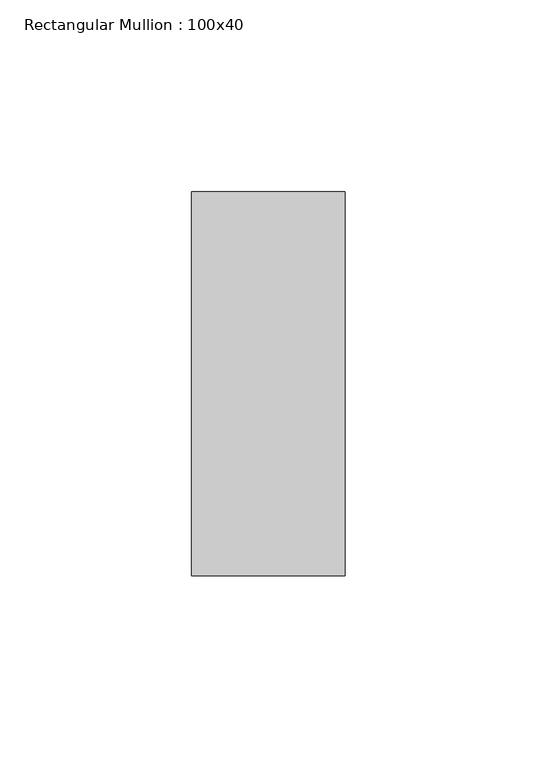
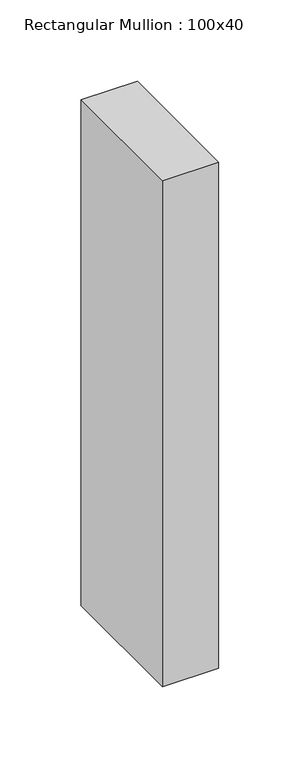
"""IFC4 building model written with IfcOpenShell, lengths in millimetres: member geometry, Rectangular Mullion : 100x40."""

from ifc_helpers import new_model, si_unit, frame, origin, place, context, project, spatial, polyline, outline, extrude, source, transform, mapped, element, save


def rectangular_mullion_100x40_4d7d8277(model_context):
    return source(origin(), model_context, "Body", "SweptSolid", [
        extrude(outline(polyline([(20.0, 50.0), (20.0, -50.0), (-20.0, -50.0), (-20.0, 50.0), (20.0, 50.0)])), frame((0.0, 0.0, -380.0), z_axis=(0.0, 0.0, 1.0), x_axis=(1.0, 0.0, 0.0)), (0.0, 0.0, 1.0), 380.0),
    ])


if __name__ == "__main__":
    model = new_model("IFC4")
    model_context = context("Model", 3, world=origin())
    ifc_project = project(units=[si_unit("LENGTHUNIT", "METRE", prefix="MILLI")], contexts=[model_context])
    site = spatial("IfcSite", under=ifc_project)
    building = spatial("IfcBuilding", under=site)
    placement = place(None, origin())
    rectangular_mullion_100x40_shape = rectangular_mullion_100x40_4d7d8277(model_context)
    element("IfcMember", 1, ObjectType="Rectangular Mullion : 100x40", at=placement, inside=building, context=model_context, shape_type="MappedRepresentation", body=[
        mapped(rectangular_mullion_100x40_shape, transform((0.0, 0.0, 0.0), x_axis=(1.0, 0.0, 0.0), y_axis=(0.0, 1.0, 0.0), z_axis=(0.0, 0.0, 1.0))),
    ])
    save(model, "model.ifc")
